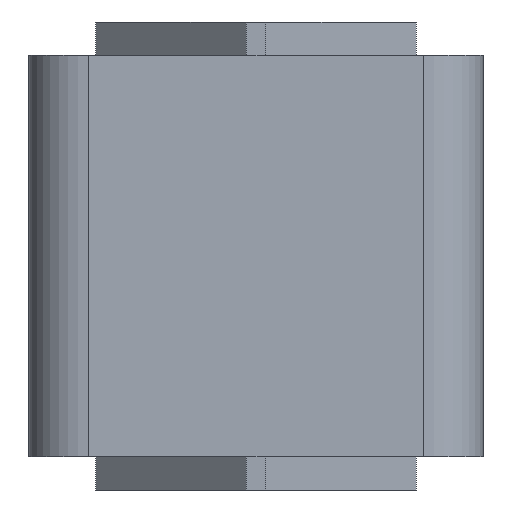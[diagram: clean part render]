
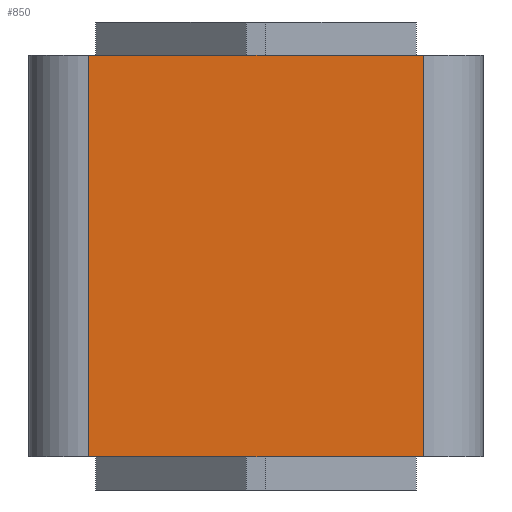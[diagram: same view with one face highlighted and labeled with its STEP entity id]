
A CAD part, left-side view. The second image highlights one B-rep face of the part: STEP entity #850.
In plain terms, the highlighted planar face has unit normal (-1, 0, 0).
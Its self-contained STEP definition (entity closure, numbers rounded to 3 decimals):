
#600=CARTESIAN_POINT('',(-32.5,12.5,30.0));
#601=VERTEX_POINT('',#600);
#619=CARTESIAN_POINT('',(-32.5,12.5,0.0));
#620=VERTEX_POINT('',#619);
#628=CARTESIAN_POINT('',(-32.5,12.5,0.0));
#629=DIRECTION('',(0.0,0.0,1.0));
#630=VECTOR('',#629,30.0);
#631=LINE('',#628,#630);
#632=EDGE_CURVE('',#620,#601,#631,.T.);
#801=CARTESIAN_POINT('',(-32.5,-12.5,30.0));
#802=VERTEX_POINT('',#801);
#810=CARTESIAN_POINT('',(-32.5,-12.5,0.0));
#811=VERTEX_POINT('',#810);
#812=CARTESIAN_POINT('',(-32.5,-12.5,0.0));
#813=DIRECTION('',(0.0,0.0,1.0));
#814=VECTOR('',#813,30.0);
#815=LINE('',#812,#814);
#816=EDGE_CURVE('',#811,#802,#815,.T.);
#829=CARTESIAN_POINT('',(-32.5,-12.5,0.0));
#830=DIRECTION('',(-1.0,0.0,0.0));
#831=DIRECTION('',(0.0,0.0,1.0));
#832=AXIS2_PLACEMENT_3D('',#829,#830,#831);
#833=PLANE('',#832);
#834=CARTESIAN_POINT('',(-32.5,-12.5,30.0));
#835=DIRECTION('',(0.0,1.0,0.0));
#836=VECTOR('',#835,25.0);
#837=LINE('',#834,#836);
#838=EDGE_CURVE('',#802,#601,#837,.T.);
#839=ORIENTED_EDGE('',*,*,#838,.T.);
#840=ORIENTED_EDGE('',*,*,#632,.F.);
#841=CARTESIAN_POINT('',(-32.5,12.5,0.0));
#842=DIRECTION('',(0.0,-1.0,0.0));
#843=VECTOR('',#842,25.0);
#844=LINE('',#841,#843);
#845=EDGE_CURVE('',#620,#811,#844,.T.);
#846=ORIENTED_EDGE('',*,*,#845,.T.);
#847=ORIENTED_EDGE('',*,*,#816,.T.);
#848=EDGE_LOOP('',(#839,#840,#846,#847));
#849=FACE_OUTER_BOUND('',#848,.T.);
#850=ADVANCED_FACE('',(#849),#833,.T.);
